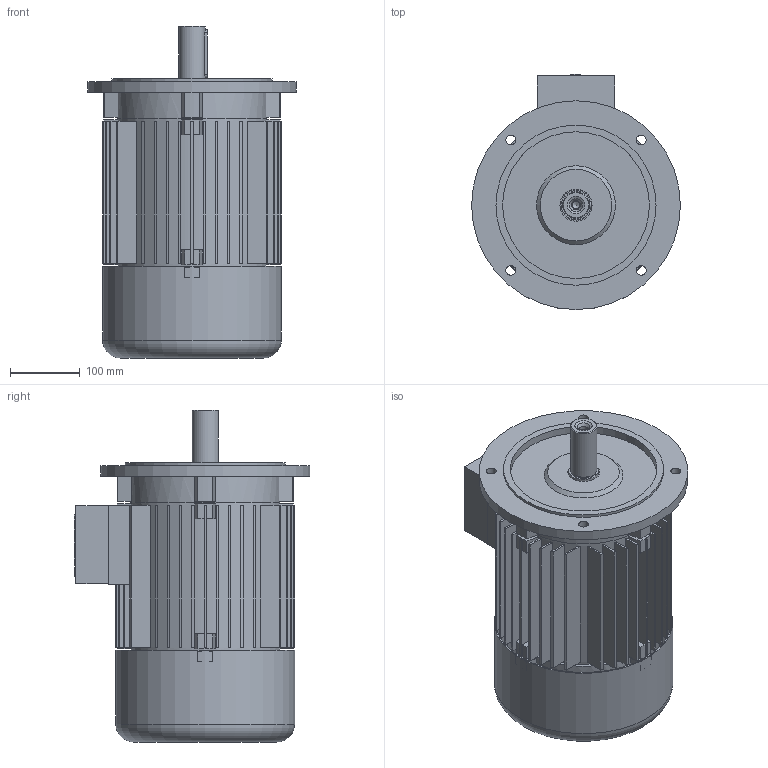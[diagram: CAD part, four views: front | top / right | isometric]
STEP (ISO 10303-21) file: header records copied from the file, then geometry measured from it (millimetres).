
FILE_DESCRIPTION (( 'STEP AP214' ), '1' );
FILE_NAME ('20.18275-B 5AZ 132S B5 STANDK.STEP', '2020-07-08T07:51:44', ( '' ), ( '' ), 'SwSTEP 2.0', 'SolidWorks 2020', '' );
FILE_SCHEMA (( 'AUTOMOTIVE_DESIGN' ));
Length unit declared in the file: millimetre
Products named in the file (1): 20.18275-B 5AZ 132S B5 STANDK
Bounding box: 300 x 338 x 477 mm (x, y, z)
Volume: 5623480 mm3; surface area: 1414106.5 mm2
Topology: 7 solids, 7 shells, 420 faces, 1055 edges, 703 vertices
Faces by surface type: plane 314, cylinder 95, cone 9, torus 2
Full cylindrical faces by diameter (mm): 10.5 x1, 13 x1, 14 x4, 36.4 x1, 38 x1, 42 x1, 46 x2, 91.786 x1, 92.143 x1, 113.36 x1, 113.76 x1, 197.5 x1, 198.16 x1, 202.16 x1, 210.833 x1, 214 x2, 222 x1, 230 x1, 253 x1, 257 x1, 300 x1
Entity records: 12463 total; most frequent: CARTESIAN_POINT 2202, DIRECTION 2153, ORIENTED_EDGE 2000, EDGE_CURVE 1000, AXIS2_PLACEMENT_3D 742, VERTEX_POINT 687, LINE 669, VECTOR 669
